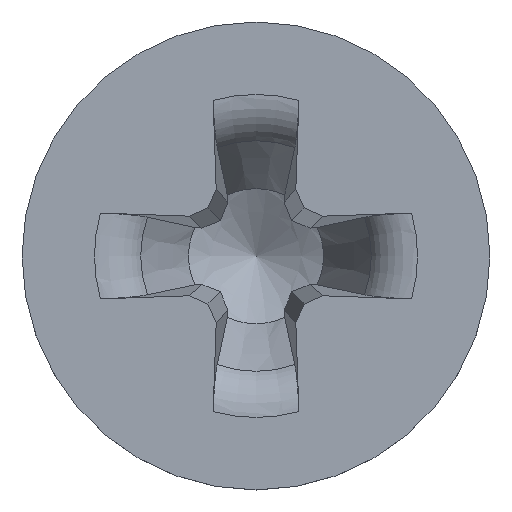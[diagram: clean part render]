
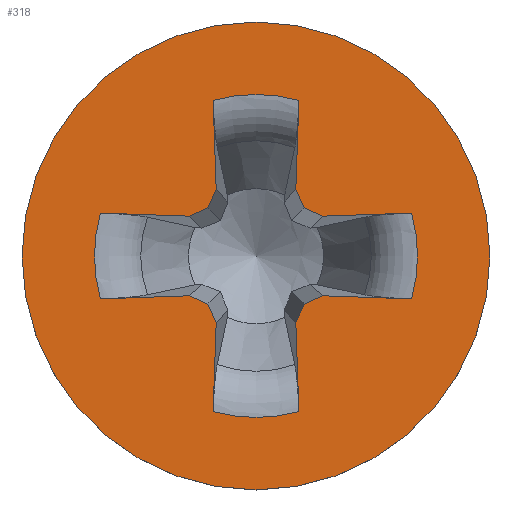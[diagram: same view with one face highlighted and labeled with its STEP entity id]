
A CAD part, top view. The second image highlights one B-rep face of the part: STEP entity #318.
In plain terms, the highlighted planar face has unit normal (0, 0, 1).
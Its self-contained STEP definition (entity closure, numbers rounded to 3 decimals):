
#98=LINE('',#3791,#184);
#99=LINE('',#3796,#185);
#100=LINE('',#3798,#186);
#101=LINE('',#3800,#187);
#102=LINE('',#3802,#188);
#103=LINE('',#3806,#189);
#104=LINE('',#3808,#190);
#105=LINE('',#3810,#191);
#106=LINE('',#3812,#192);
#107=LINE('',#3816,#193);
#108=LINE('',#3818,#194);
#109=LINE('',#3820,#195);
#110=LINE('',#3822,#196);
#111=LINE('',#3826,#197);
#112=LINE('',#3828,#198);
#113=LINE('',#3830,#199);
#184=VECTOR('',#1759,1.);
#185=VECTOR('',#1762,1.);
#186=VECTOR('',#1763,1.);
#187=VECTOR('',#1764,1.);
#188=VECTOR('',#1765,1.);
#189=VECTOR('',#1768,1.);
#190=VECTOR('',#1769,1.);
#191=VECTOR('',#1770,1.);
#192=VECTOR('',#1771,1.);
#193=VECTOR('',#1774,1.);
#194=VECTOR('',#1775,1.);
#195=VECTOR('',#1776,1.);
#196=VECTOR('',#1777,1.);
#197=VECTOR('',#1780,1.);
#198=VECTOR('',#1781,1.);
#199=VECTOR('',#1782,1.);
#275=PLANE('',#1693);
#302=FACE_BOUND('',#519,.T.);
#303=FACE_BOUND('',#520,.T.);
#318=ADVANCED_FACE('',(#302,#303),#275,.F.);
#519=EDGE_LOOP('',(#694,#695,#696,#697,#698,#699,#700,#701,#702,#703,#704,
#705,#706,#707,#708,#709,#710,#711,#712,#713));
#520=EDGE_LOOP('',(#714));
#622=CIRCLE('',#1688,1.518);
#623=CIRCLE('',#1689,1.518);
#624=CIRCLE('',#1690,1.518);
#625=CIRCLE('',#1691,1.518);
#626=CIRCLE('',#1692,2.2);
#694=ORIENTED_EDGE('',*,*,#1340,.F.);
#695=ORIENTED_EDGE('',*,*,#1341,.T.);
#696=ORIENTED_EDGE('',*,*,#1342,.F.);
#697=ORIENTED_EDGE('',*,*,#1343,.F.);
#698=ORIENTED_EDGE('',*,*,#1344,.F.);
#699=ORIENTED_EDGE('',*,*,#1345,.F.);
#700=ORIENTED_EDGE('',*,*,#1346,.T.);
#701=ORIENTED_EDGE('',*,*,#1347,.F.);
#702=ORIENTED_EDGE('',*,*,#1348,.F.);
#703=ORIENTED_EDGE('',*,*,#1349,.F.);
#704=ORIENTED_EDGE('',*,*,#1350,.F.);
#705=ORIENTED_EDGE('',*,*,#1351,.T.);
#706=ORIENTED_EDGE('',*,*,#1352,.F.);
#707=ORIENTED_EDGE('',*,*,#1353,.F.);
#708=ORIENTED_EDGE('',*,*,#1354,.F.);
#709=ORIENTED_EDGE('',*,*,#1355,.F.);
#710=ORIENTED_EDGE('',*,*,#1356,.T.);
#711=ORIENTED_EDGE('',*,*,#1357,.F.);
#712=ORIENTED_EDGE('',*,*,#1358,.F.);
#713=ORIENTED_EDGE('',*,*,#1359,.F.);
#714=ORIENTED_EDGE('',*,*,#1360,.F.);
#1179=VERTEX_POINT('',#3792);
#1180=VERTEX_POINT('',#3793);
#1181=VERTEX_POINT('',#3795);
#1182=VERTEX_POINT('',#3797);
#1183=VERTEX_POINT('',#3799);
#1184=VERTEX_POINT('',#3801);
#1185=VERTEX_POINT('',#3803);
#1186=VERTEX_POINT('',#3805);
#1187=VERTEX_POINT('',#3807);
#1188=VERTEX_POINT('',#3809);
#1189=VERTEX_POINT('',#3811);
#1190=VERTEX_POINT('',#3813);
#1191=VERTEX_POINT('',#3815);
#1192=VERTEX_POINT('',#3817);
#1193=VERTEX_POINT('',#3819);
#1194=VERTEX_POINT('',#3821);
#1195=VERTEX_POINT('',#3823);
#1196=VERTEX_POINT('',#3825);
#1197=VERTEX_POINT('',#3827);
#1198=VERTEX_POINT('',#3829);
#1199=VERTEX_POINT('',#3832);
#1340=EDGE_CURVE('',#1179,#1180,#98,.T.);
#1341=EDGE_CURVE('',#1179,#1181,#622,.T.);
#1342=EDGE_CURVE('',#1182,#1181,#99,.T.);
#1343=EDGE_CURVE('',#1183,#1182,#100,.T.);
#1344=EDGE_CURVE('',#1184,#1183,#101,.T.);
#1345=EDGE_CURVE('',#1185,#1184,#102,.T.);
#1346=EDGE_CURVE('',#1185,#1186,#623,.T.);
#1347=EDGE_CURVE('',#1187,#1186,#103,.T.);
#1348=EDGE_CURVE('',#1188,#1187,#104,.T.);
#1349=EDGE_CURVE('',#1189,#1188,#105,.T.);
#1350=EDGE_CURVE('',#1190,#1189,#106,.T.);
#1351=EDGE_CURVE('',#1190,#1191,#624,.T.);
#1352=EDGE_CURVE('',#1192,#1191,#107,.T.);
#1353=EDGE_CURVE('',#1193,#1192,#108,.T.);
#1354=EDGE_CURVE('',#1194,#1193,#109,.T.);
#1355=EDGE_CURVE('',#1195,#1194,#110,.T.);
#1356=EDGE_CURVE('',#1195,#1196,#625,.T.);
#1357=EDGE_CURVE('',#1197,#1196,#111,.T.);
#1358=EDGE_CURVE('',#1198,#1197,#112,.T.);
#1359=EDGE_CURVE('',#1180,#1198,#113,.T.);
#1360=EDGE_CURVE('',#1199,#1199,#626,.T.);
#1688=AXIS2_PLACEMENT_3D('',#3794,#1760,#1761);
#1689=AXIS2_PLACEMENT_3D('',#3804,#1766,#1767);
#1690=AXIS2_PLACEMENT_3D('',#3814,#1772,#1773);
#1691=AXIS2_PLACEMENT_3D('',#3824,#1778,#1779);
#1692=AXIS2_PLACEMENT_3D('',#3831,#1783,#1784);
#1693=AXIS2_PLACEMENT_3D('',#3833,#1785,#1786);
#1759=DIRECTION('',(-0.999,-0.035,0.));
#1760=DIRECTION('',(0.,0.,-1.));
#1761=DIRECTION('',(-1.,0.,0.));
#1762=DIRECTION('',(0.999,-0.035,0.));
#1763=DIRECTION('',(0.914,0.407,0.));
#1764=DIRECTION('',(0.407,0.914,0.));
#1765=DIRECTION('',(-0.035,0.999,0.));
#1766=DIRECTION('',(0.,0.,-1.));
#1767=DIRECTION('',(-1.,0.,0.));
#1768=DIRECTION('',(-0.035,-0.999,0.));
#1769=DIRECTION('',(0.407,-0.914,0.));
#1770=DIRECTION('',(0.914,-0.407,0.));
#1771=DIRECTION('',(0.999,0.035,0.));
#1772=DIRECTION('',(0.,0.,-1.));
#1773=DIRECTION('',(-1.,0.,0.));
#1774=DIRECTION('',(-0.999,0.035,0.));
#1775=DIRECTION('',(-0.914,-0.407,0.));
#1776=DIRECTION('',(-0.407,-0.914,0.));
#1777=DIRECTION('',(0.035,-0.999,0.));
#1778=DIRECTION('',(0.,0.,-1.));
#1779=DIRECTION('',(-1.,0.,0.));
#1780=DIRECTION('',(0.035,0.999,0.));
#1781=DIRECTION('',(-0.407,0.914,0.));
#1782=DIRECTION('',(-0.914,0.407,0.));
#1783=DIRECTION('',(0.,0.,-1.));
#1784=DIRECTION('',(-1.,0.,0.));
#1785=DIRECTION('',(0.,0.,-1.));
#1786=DIRECTION('',(-1.,0.,0.));
#3791=CARTESIAN_POINT('',(-0.012,0.352,1.69));
#3792=CARTESIAN_POINT('',(1.464,0.403,1.69));
#3793=CARTESIAN_POINT('',(0.626,0.374,1.69));
#3794=CARTESIAN_POINT('',(0.,0.,1.69));
#3795=CARTESIAN_POINT('',(1.464,-0.403,1.69));
#3796=CARTESIAN_POINT('',(-0.012,-0.352,1.69));
#3797=CARTESIAN_POINT('',(0.626,-0.374,1.69));
#3798=CARTESIAN_POINT('',(0.243,-0.545,1.69));
#3799=CARTESIAN_POINT('',(0.452,-0.452,1.69));
#3800=CARTESIAN_POINT('',(0.545,-0.243,1.69));
#3801=CARTESIAN_POINT('',(0.374,-0.626,1.69));
#3802=CARTESIAN_POINT('',(0.352,0.012,1.69));
#3803=CARTESIAN_POINT('',(0.403,-1.464,1.69));
#3804=CARTESIAN_POINT('',(0.,0.,1.69));
#3805=CARTESIAN_POINT('',(-0.403,-1.464,1.69));
#3806=CARTESIAN_POINT('',(-0.352,0.012,1.69));
#3807=CARTESIAN_POINT('',(-0.374,-0.626,1.69));
#3808=CARTESIAN_POINT('',(-0.545,-0.243,1.69));
#3809=CARTESIAN_POINT('',(-0.452,-0.452,1.69));
#3810=CARTESIAN_POINT('',(-0.243,-0.545,1.69));
#3811=CARTESIAN_POINT('',(-0.626,-0.374,1.69));
#3812=CARTESIAN_POINT('',(0.012,-0.352,1.69));
#3813=CARTESIAN_POINT('',(-1.464,-0.403,1.69));
#3814=CARTESIAN_POINT('',(0.,0.,1.69));
#3815=CARTESIAN_POINT('',(-1.464,0.403,1.69));
#3816=CARTESIAN_POINT('',(0.012,0.352,1.69));
#3817=CARTESIAN_POINT('',(-0.626,0.374,1.69));
#3818=CARTESIAN_POINT('',(-0.243,0.545,1.69));
#3819=CARTESIAN_POINT('',(-0.452,0.452,1.69));
#3820=CARTESIAN_POINT('',(-0.545,0.243,1.69));
#3821=CARTESIAN_POINT('',(-0.374,0.626,1.69));
#3822=CARTESIAN_POINT('',(-0.352,-0.012,1.69));
#3823=CARTESIAN_POINT('',(-0.403,1.464,1.69));
#3824=CARTESIAN_POINT('',(0.,0.,1.69));
#3825=CARTESIAN_POINT('',(0.403,1.464,1.69));
#3826=CARTESIAN_POINT('',(0.352,-0.012,1.69));
#3827=CARTESIAN_POINT('',(0.374,0.626,1.69));
#3828=CARTESIAN_POINT('',(0.545,0.243,1.69));
#3829=CARTESIAN_POINT('',(0.452,0.452,1.69));
#3830=CARTESIAN_POINT('',(0.243,0.545,1.69));
#3831=CARTESIAN_POINT('',(0.,0.,1.69));
#3832=CARTESIAN_POINT('',(-2.2,0.,1.69));
#3833=CARTESIAN_POINT('',(0.,0.,1.69));
